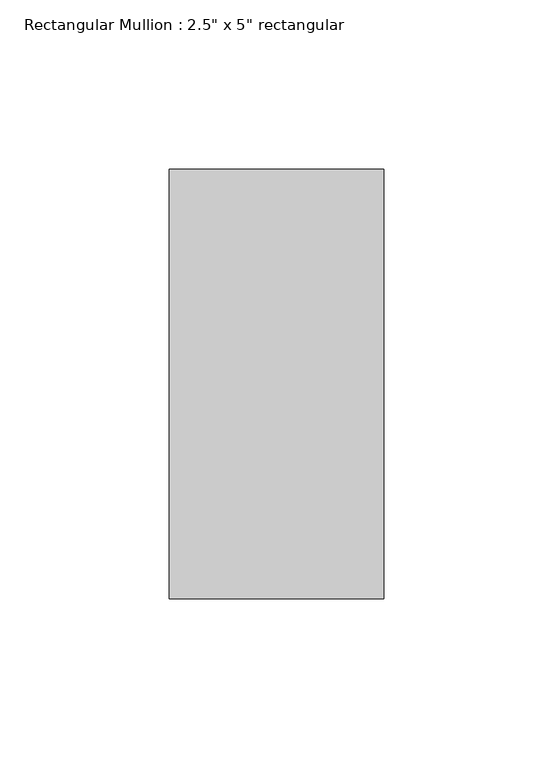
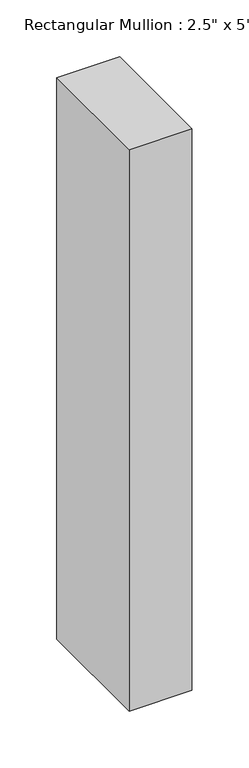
"""IFC4 building model written with IfcOpenShell, lengths in millimetres: member geometry."""

from ifc_helpers import new_model, si_unit, frame, origin, place, context, project, spatial, polyline, outline, extrude, source, transform, mapped, element, save


def member_ae036e1e(model_context):
    return source(origin(), model_context, "Body", "SweptSolid", [
        extrude(outline(polyline([(0.0, 63.5), (0.0, -63.5), (-63.5, -63.5), (-63.5, 63.5), (0.0, 63.5)])), frame((0.0, 0.0, -601.6281294), z_axis=(0.0, 0.0, 1.0), x_axis=(1.0, 0.0, 0.0)), (0.0, 0.0, 1.0), 601.6281294),
    ])


if __name__ == "__main__":
    model = new_model("IFC4")
    model_context = context("Model", 3, world=origin())
    ifc_project = project(units=[si_unit("LENGTHUNIT", "METRE", prefix="MILLI")], contexts=[model_context])
    site = spatial("IfcSite", under=ifc_project)
    building = spatial("IfcBuilding", under=site)
    placement = place(None, origin())
    member_shape = member_ae036e1e(model_context)
    element("IfcMember", 1, ObjectType="Rectangular Mullion : 2.5\" x 5\" rectangular", at=placement, inside=building, context=model_context, shape_type="MappedRepresentation", body=[
        mapped(member_shape, transform((0.0, 0.0, 0.0), x_axis=(1.0, 0.0, 0.0), y_axis=(0.0, 1.0, 0.0), z_axis=(0.0, 0.0, 1.0))),
    ])
    save(model, "model.ifc")
